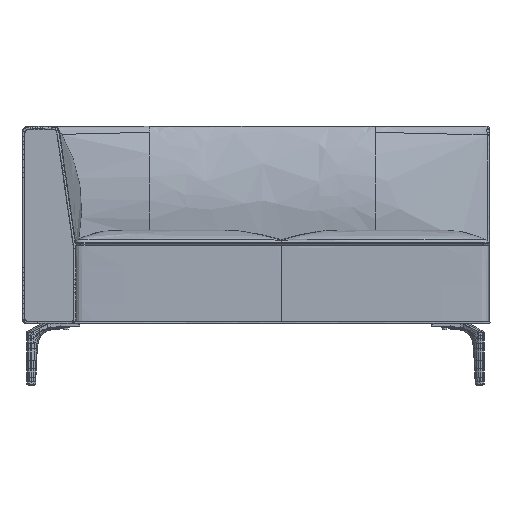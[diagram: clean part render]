
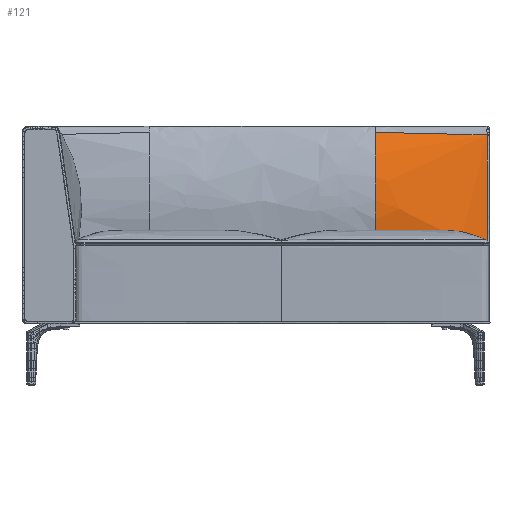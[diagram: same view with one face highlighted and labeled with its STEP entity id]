
A CAD part, front view. The second image highlights one B-rep face of the part: STEP entity #121.
In plain terms, the highlighted free-form (B-spline) face has degree [3, 3] with [7, 7] control points.
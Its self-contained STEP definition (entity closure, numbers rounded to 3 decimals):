
#121=ADVANCED_FACE('',(#1781),#22386,.T.);
#1781=FACE_OUTER_BOUND('',#3441,.T.);
#3441=EDGE_LOOP('',(#5182,#5183,#5184,#5185,#5186,#5187));
#5182=ORIENTED_EDGE('',*,*,#12674,.F.);
#5183=ORIENTED_EDGE('',*,*,#12675,.T.);
#5184=ORIENTED_EDGE('',*,*,#12676,.T.);
#5185=ORIENTED_EDGE('',*,*,#12677,.T.);
#5186=ORIENTED_EDGE('',*,*,#12767,.T.);
#5187=ORIENTED_EDGE('',*,*,#12748,.T.);
#12674=EDGE_CURVE('',#20252,#20251,#16954,.T.);
#12675=EDGE_CURVE('',#20252,#20253,#16955,.T.);
#12676=EDGE_CURVE('',#20253,#20254,#16445,.T.);
#12677=EDGE_CURVE('',#20254,#20255,#16446,.T.);
#12748=EDGE_CURVE('',#20256,#20251,#17022,.T.);
#12767=EDGE_CURVE('',#20255,#20256,#17041,.T.);
#16445=(
BOUNDED_CURVE()
B_SPLINE_CURVE(3,(#37441,#37442,#37443,#37444,#37445),.UNSPECIFIED.,.F.,
 .F.)
B_SPLINE_CURVE_WITH_KNOTS((4,1,4),(0.,159.761,324.52),
 .UNSPECIFIED.)
CURVE()
GEOMETRIC_REPRESENTATION_ITEM()
RATIONAL_B_SPLINE_CURVE((1.,1.,1.,1.,1.))
REPRESENTATION_ITEM('')
);
#16446=(
BOUNDED_CURVE()
B_SPLINE_CURVE(3,(#37446,#37447,#37448,#37449),.UNSPECIFIED.,.F.,.F.)
B_SPLINE_CURVE_WITH_KNOTS((4,4),(-326.27,0.),.UNSPECIFIED.)
CURVE()
GEOMETRIC_REPRESENTATION_ITEM()
RATIONAL_B_SPLINE_CURVE((1.,1.,1.,1.))
REPRESENTATION_ITEM('')
);
#16954=B_SPLINE_CURVE_WITH_KNOTS('',3,(#37433,#37434,#37435,#37436),
 .UNSPECIFIED.,.F.,.F.,(4,4),(-4.04,0.),.UNSPECIFIED.);
#16955=B_SPLINE_CURVE_WITH_KNOTS('',3,(#37437,#37438,#37439,#37440),
 .UNSPECIFIED.,.F.,.F.,(4,4),(0.,323.885),.UNSPECIFIED.);
#17022=B_SPLINE_CURVE_WITH_KNOTS('',3,(#39058,#39059,#39060,#39061,#39062,
#39063,#39064,#39065,#39066,#39067,#39068,#39069,#39070,#39071,#39072,#39073,
#39074,#39075,#39076,#39077,#39078,#39079),.UNSPECIFIED.,.F.,.F.,(4,2,2,
2,2,2,2,2,2,2,4),(-186.019,-162.76,-139.502,
-116.246,-93.214,-71.465,-48.893,
-37.068,-25.242,-12.621,0.),.UNSPECIFIED.);
#17041=B_SPLINE_CURVE_WITH_KNOTS('',3,(#39476,#39477,#39478,#39479,#39480,
#39481),.UNSPECIFIED.,.F.,.F.,(4,2,4),(-139.952,-72.304,
0.),.UNSPECIFIED.);
#20251=VERTEX_POINT('',#37258);
#20252=VERTEX_POINT('',#37259);
#20253=VERTEX_POINT('',#37260);
#20254=VERTEX_POINT('',#37261);
#20255=VERTEX_POINT('',#37262);
#20256=VERTEX_POINT('',#37263);
#22386=(
BOUNDED_SURFACE()
B_SPLINE_SURFACE(3,3,((#24994,#24995,#24996,#24997,#24998,#24999,#25000),
(#25001,#25002,#25003,#25004,#25005,#25006,#25007),(#25008,#25009,#25010,
#25011,#25012,#25013,#25014),(#25015,#25016,#25017,#25018,#25019,#25020,
#25021),(#25022,#25023,#25024,#25025,#25026,#25027,#25028),(#25029,#25030,
#25031,#25032,#25033,#25034,#25035),(#25036,#25037,#25038,#25039,#25040,
#25041,#25042)),.UNSPECIFIED.,.F.,.F.,.F.)
B_SPLINE_SURFACE_WITH_KNOTS((4,3,4),(4,1,1,1,4),(1005.777,1044.277,
1369.412),(0.,164.689,329.379,494.068,
702.82),.UNSPECIFIED.)
GEOMETRIC_REPRESENTATION_ITEM()
RATIONAL_B_SPLINE_SURFACE(((1.,1.,1.,1.,1.,1.,1.),(1.,1.,1.,1.,1.,1.,1.),
(1.,1.,1.,1.,1.,1.,1.),(1.,1.,1.,1.,1.,1.,1.),(1.,1.,1.,1.,1.,1.,1.),(1.,
1.,1.,1.,1.,1.,1.),(1.,1.,1.,1.,1.,1.,1.)))
REPRESENTATION_ITEM('')
SURFACE()
);
#24994=CARTESIAN_POINT('',(677.603,191.961,404.474));
#24995=CARTESIAN_POINT('',(622.707,191.961,404.517));
#24996=CARTESIAN_POINT('',(512.914,191.952,392.156));
#24997=CARTESIAN_POINT('',(348.224,191.941,374.905));
#24998=CARTESIAN_POINT('',(168.848,191.952,391.163));
#24999=CARTESIAN_POINT('',(44.367,191.961,404.425));
#25000=CARTESIAN_POINT('',(-25.216,191.961,404.474));
#25001=CARTESIAN_POINT('',(677.603,193.608,415.81));
#25002=CARTESIAN_POINT('',(622.707,193.616,415.85));
#25003=CARTESIAN_POINT('',(512.914,191.409,404.22));
#25004=CARTESIAN_POINT('',(348.224,188.33,387.989));
#25005=CARTESIAN_POINT('',(168.848,191.232,403.285));
#25006=CARTESIAN_POINT('',(44.367,193.599,415.764));
#25007=CARTESIAN_POINT('',(-25.216,193.608,415.81));
#25008=CARTESIAN_POINT('',(677.603,195.255,427.146));
#25009=CARTESIAN_POINT('',(622.707,195.271,427.184));
#25010=CARTESIAN_POINT('',(512.914,190.866,416.284));
#25011=CARTESIAN_POINT('',(348.224,184.719,401.072));
#25012=CARTESIAN_POINT('',(168.848,190.512,415.408));
#25013=CARTESIAN_POINT('',(44.367,195.238,427.103));
#25014=CARTESIAN_POINT('',(-25.216,195.255,427.146));
#25015=CARTESIAN_POINT('',(677.603,196.903,438.482));
#25016=CARTESIAN_POINT('',(622.707,196.926,438.518));
#25017=CARTESIAN_POINT('',(512.914,190.323,428.348));
#25018=CARTESIAN_POINT('',(348.224,181.108,414.156));
#25019=CARTESIAN_POINT('',(168.848,189.792,427.531));
#25020=CARTESIAN_POINT('',(44.367,196.876,438.442));
#25021=CARTESIAN_POINT('',(-25.216,196.903,438.482));
#25022=CARTESIAN_POINT('',(677.603,210.813,534.217));
#25023=CARTESIAN_POINT('',(622.707,210.901,534.231));
#25024=CARTESIAN_POINT('',(512.914,185.735,530.23));
#25025=CARTESIAN_POINT('',(348.224,150.614,524.647));
#25026=CARTESIAN_POINT('',(168.848,183.713,529.909));
#25027=CARTESIAN_POINT('',(44.367,210.714,534.201));
#25028=CARTESIAN_POINT('',(-25.216,210.813,534.217));
#25029=CARTESIAN_POINT('',(677.603,224.724,629.952));
#25030=CARTESIAN_POINT('',(622.707,224.803,629.936));
#25031=CARTESIAN_POINT('',(512.914,202.089,634.427));
#25032=CARTESIAN_POINT('',(348.224,170.389,640.695));
#25033=CARTESIAN_POINT('',(168.848,200.264,634.788));
#25034=CARTESIAN_POINT('',(44.367,224.635,629.97));
#25035=CARTESIAN_POINT('',(-25.216,224.724,629.952));
#25036=CARTESIAN_POINT('',(677.603,238.635,725.687));
#25037=CARTESIAN_POINT('',(622.707,238.639,725.673));
#25038=CARTESIAN_POINT('',(512.914,237.491,729.568));
#25039=CARTESIAN_POINT('',(348.224,235.888,735.004));
#25040=CARTESIAN_POINT('',(168.848,237.399,729.881));
#25041=CARTESIAN_POINT('',(44.367,238.631,725.702));
#25042=CARTESIAN_POINT('',(-25.216,238.635,725.687));
#37258=CARTESIAN_POINT('',(668.56,192.063,405.134));
#37259=CARTESIAN_POINT('',(672.599,192.064,405.171));
#37260=CARTESIAN_POINT('',(672.607,238.634,725.691));
#37261=CARTESIAN_POINT('',(348.224,236.386,733.314));
#37262=CARTESIAN_POINT('',(348.224,182.553,425.679));
#37263=CARTESIAN_POINT('',(487.92,189.359,421.911));
#37433=CARTESIAN_POINT('',(672.599,192.064,405.171));
#37434=CARTESIAN_POINT('',(671.253,192.064,405.162));
#37435=CARTESIAN_POINT('',(669.906,192.063,405.15));
#37436=CARTESIAN_POINT('',(668.56,192.063,405.134));
#37437=CARTESIAN_POINT('',(672.599,192.064,405.171));
#37438=CARTESIAN_POINT('',(672.651,207.566,512.014));
#37439=CARTESIAN_POINT('',(672.665,223.085,618.855));
#37440=CARTESIAN_POINT('',(672.607,238.634,725.691));
#37441=CARTESIAN_POINT('',(672.607,238.634,725.691));
#37442=CARTESIAN_POINT('',(619.376,238.604,725.791));
#37443=CARTESIAN_POINT('',(511.248,237.475,729.623));
#37444=CARTESIAN_POINT('',(403.121,236.422,733.192));
#37445=CARTESIAN_POINT('',(348.224,236.386,733.314));
#37446=CARTESIAN_POINT('',(348.224,236.386,733.314));
#37447=CARTESIAN_POINT('',(348.224,181.477,640.824));
#37448=CARTESIAN_POINT('',(348.224,162.372,531.311));
#37449=CARTESIAN_POINT('',(348.224,182.553,425.679));
#39058=CARTESIAN_POINT('',(487.92,189.359,421.911));
#39059=CARTESIAN_POINT('',(497.709,189.941,421.562));
#39060=CARTESIAN_POINT('',(507.677,190.497,421.222));
#39061=CARTESIAN_POINT('',(528.027,191.503,420.577));
#39062=CARTESIAN_POINT('',(538.466,191.953,420.272));
#39063=CARTESIAN_POINT('',(559.502,192.7,419.72));
#39064=CARTESIAN_POINT('',(570.045,192.997,419.473));
#39065=CARTESIAN_POINT('',(590.34,193.434,419.021));
#39066=CARTESIAN_POINT('',(599.941,193.574,418.822));
#39067=CARTESIAN_POINT('',(618.406,193.748,418.347));
#39068=CARTESIAN_POINT('',(627.083,193.785,418.074));
#39069=CARTESIAN_POINT('',(642.307,193.771,417.295));
#39070=CARTESIAN_POINT('',(648.679,193.719,416.791));
#39071=CARTESIAN_POINT('',(655.979,193.573,415.651));
#39072=CARTESIAN_POINT('',(658.085,193.51,415.186));
#39073=CARTESIAN_POINT('',(661.631,193.343,413.997));
#39074=CARTESIAN_POINT('',(663.12,193.234,413.232));
#39075=CARTESIAN_POINT('',(665.409,192.979,411.472));
#39076=CARTESIAN_POINT('',(666.231,192.834,410.46));
#39077=CARTESIAN_POINT('',(667.577,192.494,408.1));
#39078=CARTESIAN_POINT('',(668.091,192.298,406.752));
#39079=CARTESIAN_POINT('',(668.56,192.063,405.134));
#39476=CARTESIAN_POINT('',(348.224,182.553,425.679));
#39477=CARTESIAN_POINT('',(371.454,182.689,425.639));
#39478=CARTESIAN_POINT('',(394.976,183.707,425.095));
#39479=CARTESIAN_POINT('',(441.811,186.366,423.655));
#39480=CARTESIAN_POINT('',(462.649,187.855,422.812));
#39481=CARTESIAN_POINT('',(487.92,189.359,421.911));
